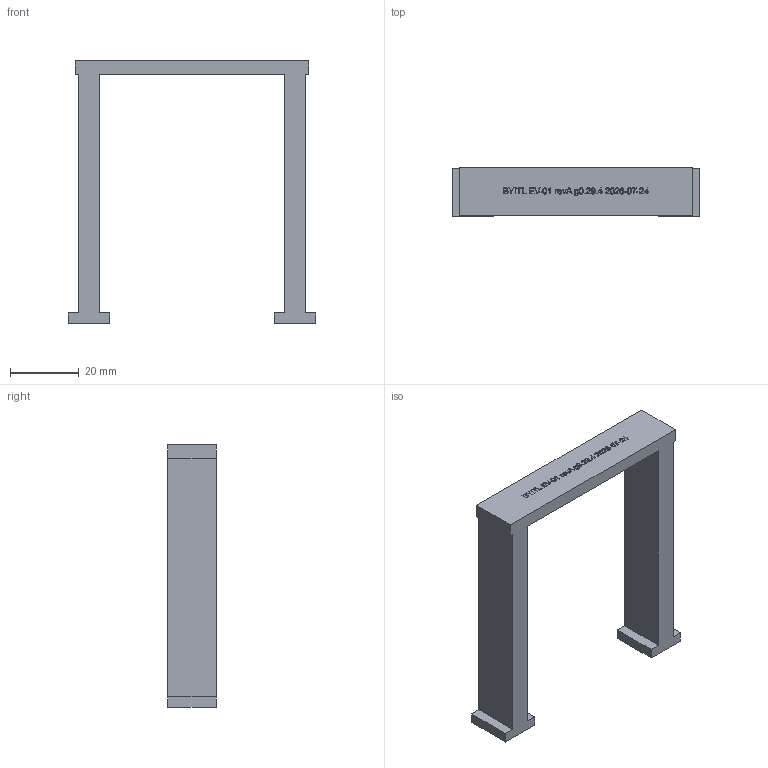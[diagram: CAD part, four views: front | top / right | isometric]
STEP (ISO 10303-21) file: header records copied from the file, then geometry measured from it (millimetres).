
FILE_DESCRIPTION(('Open CASCADE Model'),'2;1');
FILE_NAME('Open CASCADE Shape Model','2026-07-24T14:41:33',('Author'),( 'Open CASCADE'),'Open CASCADE STEP processor 7.9','build123d', 'Unknown');
FILE_SCHEMA(('AUTOMOTIVE_DESIGN { 1 0 10303 214 1 1 1 1 }'));
Length unit declared in the file: millimetre
Products named in the file (1): COMPOUND
Bounding box: 72 x 14 x 76.5 mm (x, y, z)
Volume: 16400 mm3; surface area: 8919.6 mm2
Topology: 1 solids, 1 shells, 531 faces, 1449 edges, 966 vertices
Faces by surface type: extrusion 299, plane 230, cylinder 2
Full cylindrical faces by diameter (mm): 3.5 x2
Entity records: 39987 total; most frequent: CARTESIAN_POINT 14228, DIRECTION 3281, ORIENTED_EDGE 2898, PCURVE 2898, DEFINITIONAL_REPRESENTATION 2898, VECTOR 2803, LINE 2504, B_SPLINE_CURVE_WITH_KNOTS 2134
